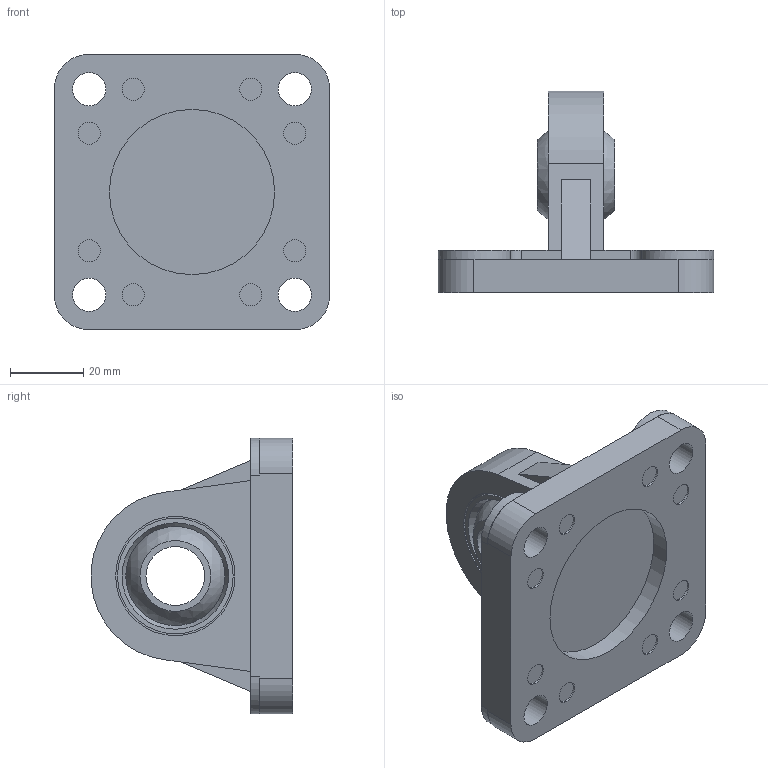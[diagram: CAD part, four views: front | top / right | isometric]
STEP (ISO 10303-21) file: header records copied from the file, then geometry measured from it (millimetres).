
FILE_DESCRIPTION( ( 'STEP AP214' ), '1' );
FILE_NAME( 'C:/Users/Administrator/Desktop/FJ-VBC63CS.stp', '2024-11-21T05:08:57', ( 'License CC BY-ND 4.0' ), ( 'CADENAS' ), ' ', 'PARTsolutions', ' ' );
FILE_SCHEMA( ( 'AUTOMOTIVE_DESIGN { 1 0 10303 214 1 1 1 1 }' ) );
Length unit declared in the file: millimetre
Products named in the file (1): _FJ-VBC63CS
Bounding box: 75 x 54.92 x 75 mm (x, y, z)
Volume: 76036.7 mm3; surface area: 22843.1 mm2
Topology: 1 solids, 1 shells, 87 faces, 198 edges, 134 vertices
Faces by surface type: plane 46, cylinder 37, sphere 2, cone 2
Full cylindrical faces by diameter (mm): 6 x8, 9 x4, 15 x4, 16 x1, 27 x2, 31.5 x2, 32.5 x2, 45 x1
Entity records: 2994 total; most frequent: DIRECTION 420, CARTESIAN_POINT 374, ORIENTED_EDGE 324, AXIS2_PLACEMENT_3D 170, EDGE_CURVE 162, EDGE_LOOP 144, VERTEX_POINT 124, FACE_OUTER_BOUND 111
